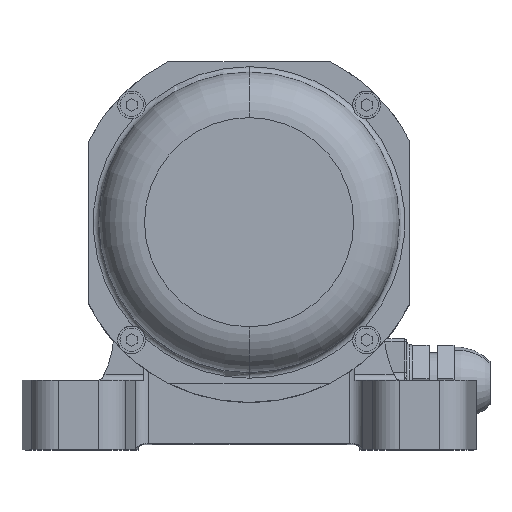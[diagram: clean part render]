
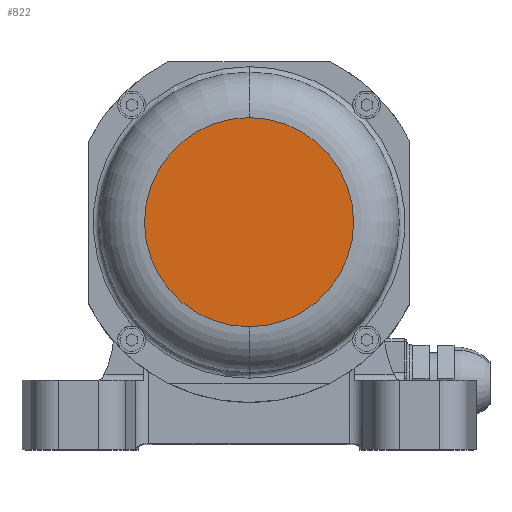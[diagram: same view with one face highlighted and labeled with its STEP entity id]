
A CAD part, top view. The second image highlights one B-rep face of the part: STEP entity #822.
In plain terms, the highlighted planar face has unit normal (0, 0, 1).
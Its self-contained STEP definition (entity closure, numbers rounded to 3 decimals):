
#822 = ADVANCED_FACE ( 'NONE', ( #19912 ), #5981, .T. ) ;
#1817 = CARTESIAN_POINT ( 'NONE',  ( 0., -37.75, 111. ) ) ;
#2084 = EDGE_CURVE ( 'NONE', #13008, #14491, #31179, .T. ) ;
#5332 = AXIS2_PLACEMENT_3D ( 'NONE', #23282, #25582, #13446 ) ;
#5904 = DIRECTION ( 'NONE',  ( 0., 0., -1. ) ) ;
#5981 = PLANE ( 'NONE',  #20666 ) ;
#7471 = ORIENTED_EDGE ( 'NONE', *, *, #2084, .F. ) ;
#9526 = ORIENTED_EDGE ( 'NONE', *, *, #23508, .F. ) ;
#13008 = VERTEX_POINT ( 'NONE', #29033 ) ;
#13446 = DIRECTION ( 'NONE',  ( 0., 1., 0. ) ) ;
#14491 = VERTEX_POINT ( 'NONE', #1817 ) ;
#16244 = CIRCLE ( 'NONE', #18085, 37.75 ) ;
#18085 = AXIS2_PLACEMENT_3D ( 'NONE', #20765, #5904, #23250 ) ;
#19912 = FACE_OUTER_BOUND ( 'NONE', #26942, .T. ) ;
#20666 = AXIS2_PLACEMENT_3D ( 'NONE', #23655, #25125, #22577 ) ;
#20765 = CARTESIAN_POINT ( 'NONE',  ( 0., 0., 111. ) ) ;
#22577 = DIRECTION ( 'NONE',  ( 0., -1., 0. ) ) ;
#23250 = DIRECTION ( 'NONE',  ( 0., 1., 0. ) ) ;
#23282 = CARTESIAN_POINT ( 'NONE',  ( 0., 0., 111. ) ) ;
#23508 = EDGE_CURVE ( 'NONE', #14491, #13008, #16244, .T. ) ;
#23655 = CARTESIAN_POINT ( 'NONE',  ( 37.75, 0., 111. ) ) ;
#25125 = DIRECTION ( 'NONE',  ( 0., 0., 1. ) ) ;
#25582 = DIRECTION ( 'NONE',  ( 0., 0., -1. ) ) ;
#26942 = EDGE_LOOP ( 'NONE', ( #7471, #9526 ) ) ;
#29033 = CARTESIAN_POINT ( 'NONE',  ( 0., 37.75, 111. ) ) ;
#31179 = CIRCLE ( 'NONE', #5332, 37.75 ) ;
